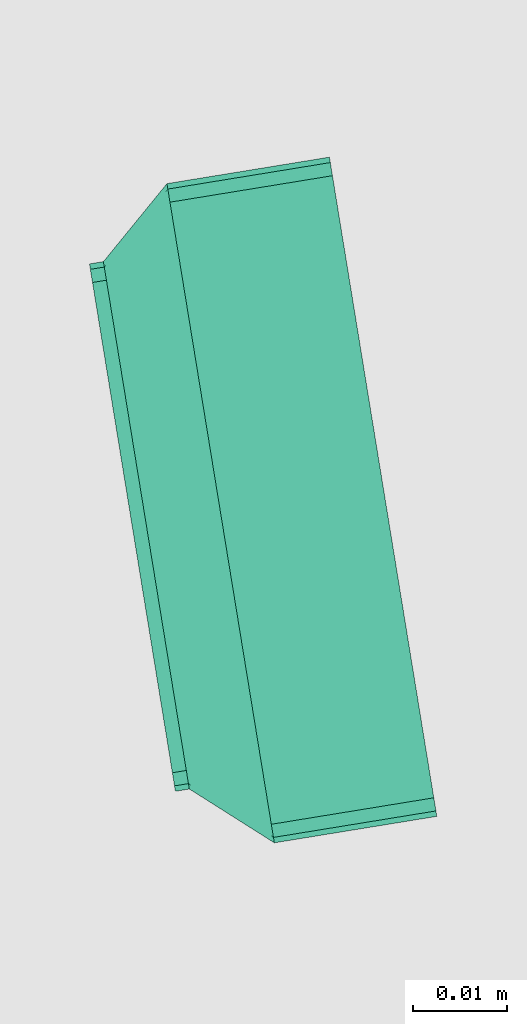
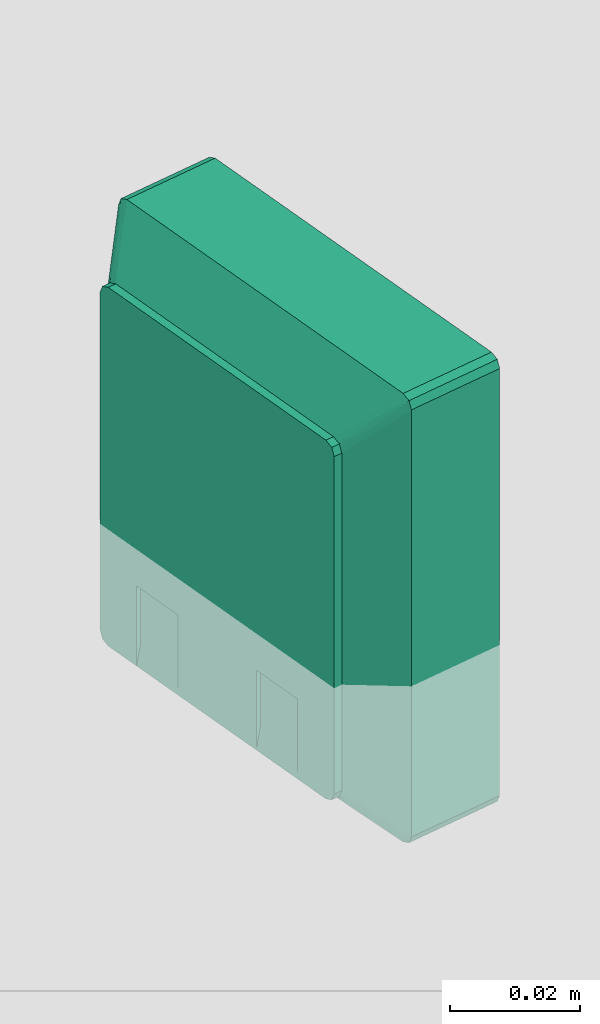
# One storey, part 2 of 2: 1 flow terminal.
"""IFC2X3 building model written with IfcOpenShell, lengths in millimetres."""

import ifcopenshell
import ifcopenshell.guid

model = None  # the IFC model being written
_history = None  # IfcOwnerHistory: only IFC2X3 demands one
_inside = {}  # id of a spatial element -> (the spatial element, [elements in it])
_under = {}  # id of a project, library or spatial element -> (it, [spatial elements below it])
_declared = {}  # id of a project -> (the project, [libraries it declares])
_typed = {}  # id of a type object -> (the type object, [elements of that type])
_made_of = {}  # id of a material, layer set ... -> (it, [elements and type objects made of it])


def new_model(schema):
    """Start an empty IFC model of exactly this schema.

    Asked for "IFC4X3", IfcOpenShell would pick the latest addendum, in which some entities
    have other attributes; the version numbers below select the first issue.
    IFC2X3 requires an IfcOwnerHistory on every rooted entity: one is made here for all.
    """
    global model, _history
    if schema == "IFC4X3":
        model = ifcopenshell.file(schema_version=(4, 3, 0, 0))
    else:
        model = ifcopenshell.file(schema=schema)
    _inside.clear()
    _under.clear()
    _declared.clear()
    _typed.clear()
    _made_of.clear()
    _history = None
    if model.schema == "IFC2X3":
        org = make("IfcOrganization", Name="unknown")
        user = make(
            "IfcPersonAndOrganization",
            ThePerson=make("IfcPerson", FamilyName="unknown"),
            TheOrganization=org,
        )
        app = make(
            "IfcApplication",
            ApplicationDeveloper=org,
            Version="unknown",
            ApplicationFullName="unknown",
            ApplicationIdentifier="unknown",
        )
        _history = make(
            "IfcOwnerHistory",
            OwningUser=user,
            OwningApplication=app,
            ChangeAction="ADDED",
            CreationDate=0,
        )
    return model


def make(cls, **values):
    """One entity of the class cls with the attributes given. An attribute that is None is left unset."""
    return model.create_entity(
        cls, **{name: value for name, value in values.items() if value is not None}
    )


def entity(cls, *values):
    """Any entity or typed value of the class cls, its attributes in the order of the schema. None: left unset."""
    e = model.create_entity(cls)
    for i, value in enumerate(values):
        if value is not None:
            e[i] = value
    return e


def rooted(cls, **values):
    """An entity with a GlobalId (a new one), such as an element, a storey or a relation."""
    return make(cls, GlobalId=ifcopenshell.guid.new(), OwnerHistory=_history, **values)


def si_unit(unit_type, name, prefix=None):
    """IfcSIUnit, for example si_unit("LENGTHUNIT", "METRE", prefix="MILLI")."""
    return make("IfcSIUnit", UnitType=unit_type, Prefix=prefix, Name=name)


def converted_unit(unit_type, name, factor, base, dimensions=None, offset=None):
    """IfcConversionBasedUnit, such as the inch: factor (a typed value) times the base unit."""
    return make(
        "IfcConversionBasedUnit"
        if offset is None
        else "IfcConversionBasedUnitWithOffset",
        ConversionOffset=offset,
        Dimensions=None
        if dimensions is None
        else entity("IfcDimensionalExponents", *dimensions),
        UnitType=unit_type,
        Name=name,
        ConversionFactor=make(
            "IfcMeasureWithUnit", ValueComponent=factor, UnitComponent=base
        ),
    )


def derived_unit(unit_type, elements):
    """IfcDerivedUnit: a product of units, each with its exponent."""
    return make(
        "IfcDerivedUnit",
        Elements=[
            make("IfcDerivedUnitElement", Unit=unit, Exponent=power)
            for unit, power in elements
        ],
        UnitType=unit_type,
    )


def assignment(units):
    """IfcUnitAssignment: the units of a project."""
    return None if units is None else make("IfcUnitAssignment", Units=units)


def point(xyz):
    """IfcCartesianPoint."""
    return None if xyz is None else make("IfcCartesianPoint", Coordinates=xyz)


def direction(xyz):
    """IfcDirection."""
    return None if xyz is None else make("IfcDirection", DirectionRatios=xyz)


def frame(location, z_axis=None, x_axis=None):
    """IfcAxis2Placement3D, a coordinate frame: its origin and axes. An axis left out is left unset."""
    return make(
        "IfcAxis2Placement3D",
        Location=point(location),
        Axis=direction(z_axis),
        RefDirection=direction(x_axis),
    )


def origin():
    """The frame at (0, 0, 0) with its axes left unset."""
    return frame((0.0, 0.0, 0.0))


def origin_with_axes():
    """The frame at (0, 0, 0) with the z axis (0, 0, 1) and the x axis (1, 0, 0) written out."""
    return frame((0.0, 0.0, 0.0), z_axis=(0.0, 0.0, 1.0), x_axis=(1.0, 0.0, 0.0))


def place(relative_to, where):
    """IfcLocalPlacement: puts the frame where relative to a parent placement (None: the world)."""
    return make(
        "IfcLocalPlacement", PlacementRelTo=relative_to, RelativePlacement=where
    )


def context(
    kind, dimensions, precision=None, world=None, true_north=None, identifier=None
):
    """IfcGeometricRepresentationContext, for example the 3D "Model" context."""
    return make(
        "IfcGeometricRepresentationContext",
        ContextIdentifier=identifier,
        ContextType=kind,
        CoordinateSpaceDimension=dimensions,
        Precision=precision,
        WorldCoordinateSystem=world,
        TrueNorth=true_north,
    )


def subcontext(parent, identifier, kind, view, scale=None):
    """IfcGeometricRepresentationSubContext, for example "Body" below "Model"."""
    return make(
        "IfcGeometricRepresentationSubContext",
        ContextIdentifier=identifier,
        ContextType=kind,
        ParentContext=parent,
        TargetScale=scale,
        TargetView=view,
    )


def project(units=None, contexts=None):
    """IfcProject with its units and contexts."""
    return rooted(
        "IfcProject",
        Name="project",
        RepresentationContexts=contexts,
        UnitsInContext=assignment(units),
    )


def spatial(cls, under=None, at=None, **own):
    """A site, building, storey or space (cls), placed at a placement, below another one or the project."""
    s = rooted(cls, ObjectPlacement=at, **own)
    if under is not None:
        _under.setdefault(under.id(), (under, []))[1].append(s)
    return s


def faces_of(points, faces, orient=None, outer=None):
    """IfcFace entities. A face is a list of loops; a loop is a list of indices into points, from 0.

    orient and outer hold one flag for each loop. By default every Orientation is true, the
    first loop of a face is its IfcFaceOuterBound and the others are IfcFaceBound.
    """
    made = []
    for i, loops in enumerate(faces):
        bounds = []
        for j, loop in enumerate(loops):
            is_outer = j == 0 if outer is None else outer[i][j]
            bounds.append(
                make(
                    "IfcFaceOuterBound" if is_outer else "IfcFaceBound",
                    Bound=make("IfcPolyLoop", Polygon=[points[k] for k in loop]),
                    Orientation=True if orient is None else orient[i][j],
                )
            )
        made.append(make("IfcFace", Bounds=bounds))
    return made


def faceted_brep(points, faces, orient=None, outer=None, voids=None):
    """IfcFacetedBrep: a solid bounded by flat faces; with voids (closed shells), ...WithVoids."""
    shared = [point(p) for p in points]
    hull = make("IfcClosedShell", CfsFaces=faces_of(shared, faces, orient, outer))
    if voids is None:
        return make("IfcFacetedBrep", Outer=hull)
    return make(
        "IfcFacetedBrepWithVoids",
        Outer=hull,
        Voids=[
            make(cls, CfsFaces=faces_of(shared, fs, o, b)) for cls, fs, o, b in voids
        ],
    )


def shape(context_of_items, identifier, shape_type, items):
    """IfcShapeRepresentation: the items that make up one representation, for example the "Body"."""
    return make(
        "IfcShapeRepresentation",
        ContextOfItems=context_of_items,
        RepresentationIdentifier=identifier,
        RepresentationType=shape_type,
        Items=items,
    )


def source(mapping_origin, context_of_items, identifier, shape_type, items):
    """IfcRepresentationMap: a shape defined once, which mapped items show again and again."""
    return make(
        "IfcRepresentationMap",
        MappingOrigin=mapping_origin,
        MappedRepresentation=shape(context_of_items, identifier, shape_type, items),
    )


def transform(
    local_origin,
    x_axis=None,
    y_axis=None,
    z_axis=None,
    scale=None,
    scale2=None,
    scale3=None,
    uniform=True,
):
    """IfcCartesianTransformationOperator3D, or its non-uniform kind. x_axis, y_axis, z_axis: its Axis1, 2, 3."""
    if uniform:
        return make(
            "IfcCartesianTransformationOperator3D",
            Axis1=direction(x_axis),
            Axis2=direction(y_axis),
            LocalOrigin=point(local_origin),
            Scale=scale,
            Axis3=direction(z_axis),
        )
    return make(
        "IfcCartesianTransformationOperator3DnonUniform",
        Axis1=direction(x_axis),
        Axis2=direction(y_axis),
        LocalOrigin=point(local_origin),
        Scale=scale,
        Axis3=direction(z_axis),
        Scale2=scale2,
        Scale3=scale3,
    )


def mapped(mapping_source, mapping_target):
    """IfcMappedItem: shows the shape of a source again, moved by a transform."""
    return make(
        "IfcMappedItem", MappingSource=mapping_source, MappingTarget=mapping_target
    )


def material(Name=None, Category=None):
    """IfcMaterial."""
    return make("IfcMaterial", Name=Name, Category=Category)


def made_of(thing, what):
    """Note that an element or type object is made of a material, layer set ...; save() writes the relation."""
    if what is not None:
        _made_of.setdefault(what.id(), (what, []))[1].append(thing)
    return thing


def type_object(cls, material=None, **own):
    """A type object (cls), such as IfcWallType, which elements share."""
    return made_of(rooted(cls, **own), material)


def element(
    cls,
    number,
    at=None,
    inside=None,
    cuts=None,
    type_object=None,
    material=None,
    context=None,
    identifier="Body",
    shape_type=None,
    held_by="IfcProductDefinitionShape",
    body=None,
    shapes=None,
    **own,
):
    """One element of the class cls, such as IfcWall. Its Tag is "e" and its number.

    at: its placement. inside: the storey or other place that contains it. cuts: it is an
    opening in that element (IfcRelVoidsElement). A single representation is given by context,
    identifier, shape_type and body (its items); several are given by shapes. held_by: the class
    of the entity that holds the representations. save() writes the other relations.
    """
    e = rooted(cls, Tag="e%d" % number, ObjectPlacement=at, **own)
    if body is not None:
        shapes = [shape(context, identifier, shape_type, body)]
    if shapes is not None:
        e.Representation = make(held_by, Representations=shapes)
    if inside is not None:
        _inside.setdefault(inside.id(), (inside, []))[1].append(e)
    if cuts is not None:
        rooted(
            "IfcRelVoidsElement", RelatingBuildingElement=cuts, RelatedOpeningElement=e
        )
    if type_object is not None:
        _typed.setdefault(type_object.id(), (type_object, []))[1].append(e)
    return made_of(e, material)


def aggregate(whole, parts):
    """IfcRelAggregates: a whole, such as a stair, and the parts it consists of."""
    return rooted("IfcRelAggregates", RelatingObject=whole, RelatedObjects=parts)


def save(model, path):
    """Write the relations noted so far, then the file.

    IfcRelAggregates (storeys below a building ...), IfcRelContainedInSpatialStructure (elements
    in a storey), IfcRelDefinesByType, IfcRelAssociatesMaterial and IfcRelDeclares: one each for
    every whole, place, type object, material and project.
    """
    for whole, parts in _under.values():
        aggregate(whole, parts)
    for where, things in _inside.values():
        rooted(
            "IfcRelContainedInSpatialStructure",
            RelatedElements=things,
            RelatingStructure=where,
        )
    for kind, things in _typed.values():
        rooted("IfcRelDefinesByType", RelatedObjects=things, RelatingType=kind)
    for what, things in _made_of.values():
        rooted("IfcRelAssociatesMaterial", RelatedObjects=things, RelatingMaterial=what)
    for by, libraries in _declared.values():
        rooted("IfcRelDeclares", RelatingContext=by, RelatedDefinitions=libraries)
    model.write(path)


model = new_model("IFC2X3")

# Units and contexts
model_context = context("Model", 3, precision=0.01, world=origin(), true_north=direction((6.12323399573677e-17, 1.0)))
plan_context = context("Plan", 3, precision=1e-05, world=origin_with_axes())
body_context = subcontext(model_context, "Body", "Model", "MODEL_VIEW")
ifc_project = project(units=[converted_unit("PLANEANGLEUNIT", "DEGREE", entity("IfcPositiveLengthMeasure", 0.0174532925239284), si_unit("PLANEANGLEUNIT", "RADIAN"), dimensions=[0, 0, 0, 0, 0, 0, 0]), si_unit("AREAUNIT", "SQUARE_METRE"), si_unit("LENGTHUNIT", "METRE", prefix="MILLI"), si_unit("MASSUNIT", "GRAM", prefix="KILO"), si_unit("POWERUNIT", "WATT"), si_unit("PRESSUREUNIT", "PASCAL", prefix="KILO"), si_unit("FORCEUNIT", "NEWTON", prefix="KILO"), si_unit("ELECTRICVOLTAGEUNIT", "VOLT"), si_unit("ELECTRICCURRENTUNIT", "AMPERE"), si_unit("THERMODYNAMICTEMPERATUREUNIT", "DEGREE_CELSIUS"), si_unit("TIMEUNIT", "SECOND"), si_unit("VOLUMEUNIT", "CUBIC_METRE"), derived_unit("LINEARVELOCITYUNIT", [(si_unit("LENGTHUNIT", "METRE"), 1), (si_unit("TIMEUNIT", "SECOND"), -1)]), derived_unit("VOLUMETRICFLOWRATEUNIT", [(si_unit("VOLUMEUNIT", "CUBIC_METRE"), 1), (si_unit("TIMEUNIT", "SECOND"), -1)]), derived_unit("THERMALTRANSMITTANCEUNIT", [(si_unit("POWERUNIT", "WATT"), 1), (si_unit("THERMODYNAMICTEMPERATUREUNIT", "KELVIN"), -1), (si_unit("AREAUNIT", "SQUARE_METRE"), -1)]), derived_unit("SOUNDPRESSUREUNIT", [(si_unit("PRESSUREUNIT", "PASCAL"), 1)])], contexts=[model_context, plan_context])

# Site, building, storey
site_placement = place(None, frame((5.09380697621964e-08, 5.80416781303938e-08, 0.0), z_axis=(0.0, 0.0, 1.0), x_axis=(-0.160806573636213, 0.986985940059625, 0.0)))
site = spatial("IfcSite", under=ifc_project, at=site_placement, Name="Default", CompositionType="ELEMENT")
building_placement = place(site_placement, frame((0.0, 0.0, 0.0), z_axis=(0.0, 0.0, 1.0), x_axis=(1.0, -2.77555756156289e-17, 0.0)))
building = spatial("IfcBuilding", under=site, at=building_placement, Name="Bygning (endres i Project Information)", CompositionType="ELEMENT")
storey_placement = place(building_placement, frame((0.0, 0.0, 51360.0000000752), z_axis=(0.0, 0.0, 1.0), x_axis=(1.0, -2.77555756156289e-17, 0.0)))
storey = spatial("IfcBuildingStorey", under=building, at=storey_placement, Name="H01-Nivå D+0,36", CompositionType="ELEMENT", Elevation=51360.0000000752)

# Flow terminal
ifc_material = material(Name="Plastic - White")
electric_appliance_type = type_object("IfcElectricApplianceType", Name="UD2002 Spredenett - 2 uttak - Påvegg_Vegg:UD2002", PredefinedType="NOTDEFINED", material=ifc_material)
shared_shape = source(origin(), body_context, "Body", "Brep", [
    faceted_brep([(28.4000000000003, 25.4999999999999, -31.5999999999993), (27.8142135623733, 25.4999999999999, -33.0142135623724), (26.4000000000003, 25.4999999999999, -33.5999999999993), (-26.3999999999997, 25.4999999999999, -33.5999999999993), (-27.8142135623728, 25.4999999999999, -33.0142135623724), (-28.3999999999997, 25.4999999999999, -31.5999999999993), (-28.3999999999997, 25.4999999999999, 31.6000000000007), (-27.8142135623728, 25.4999999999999, 33.0142135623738), (-26.3999999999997, 25.4999999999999, 33.6000000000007), (26.4000000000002, 25.4999999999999, 33.6000000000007), (27.8142135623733, 25.4999999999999, 33.0142135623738), (28.4000000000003, 25.4999999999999, 31.6000000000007), (35.5000000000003, 17.5, 40.0), (34.9142135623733, 17.5, 41.4142135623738), (33.5000000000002, 17.5, 42.0), (-33.4999999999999, 17.5, 42.0), (-34.914213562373, 17.5, 41.4142135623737), (-35.4999999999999, 17.5, 40.0), (-35.4999999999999, 17.5, -40.0), (-34.914213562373, 17.5, -41.4142135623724), (-33.4999999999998, 17.5, -42.0), (33.5000000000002, 17.5, -42.0), (34.9142135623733, 17.5, -41.4142135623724), (35.5000000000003, 17.5, -40.0), (29.8123847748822, 21.6550594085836, 37.6371876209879), (-29.8123847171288, 21.6550594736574, 37.6371875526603), (-31.8123847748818, 21.6550594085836, 35.6371876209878), (-31.8123847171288, 21.6550594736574, -35.637187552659), (29.8123844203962, 21.6550598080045, -37.6371872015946), (-29.8123847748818, 21.6550594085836, -37.6371876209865), (31.8123844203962, 21.6550598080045, 35.6371872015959), (31.8123847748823, 21.6550594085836, -35.6371876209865), (-31.6676261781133, 21.5000001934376, 36.8245776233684), (-31.1968403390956, 21.2063787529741, 37.8482184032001), (-30.9745776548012, 21.5000001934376, -37.5176261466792), (-31.9505049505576, 21.2063787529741, -37.0945537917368), (31.6676261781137, 21.5000001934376, -36.824577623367), (31.196840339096, 21.2063787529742, -37.8482184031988), (30.9745776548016, 21.5000001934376, 37.5176261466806), (31.950504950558, 21.2063787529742, 37.0945537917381)], [[[0, 1, 2, 3, 4, 5, 6, 7, 8, 9, 10, 11]], [[12, 13, 14, 15, 16, 17, 18, 19, 20, 21, 22, 23]], [[14, 24, 9, 8, 25, 15]], [[17, 26, 6, 5, 27, 18]], [[3, 2, 28, 21, 20, 29]], [[0, 11, 30, 12, 23, 31]], [[16, 32, 17]], [[33, 15, 25, 8]], [[15, 33, 16]], [[7, 6, 32]], [[7, 32, 33]], [[17, 32, 6, 26]], [[8, 7, 33]], [[33, 32, 16]], [[19, 34, 20]], [[35, 18, 27, 5]], [[18, 35, 19]], [[4, 3, 34]], [[4, 34, 35]], [[20, 34, 3, 29]], [[5, 4, 35]], [[35, 34, 19]], [[22, 36, 23]], [[37, 21, 28, 2]], [[21, 37, 22]], [[1, 0, 36]], [[1, 36, 37]], [[23, 36, 0, 31]], [[2, 1, 37]], [[37, 36, 22]], [[13, 38, 14]], [[39, 12, 30, 11]], [[12, 39, 13]], [[10, 9, 38]], [[10, 38, 39]], [[14, 38, 9, 24]], [[11, 10, 39]], [[39, 38, 13]]]),
    faceted_brep([(35.5000000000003, 0.0, 40.0), (34.9142135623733, 0.0, 41.4142135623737), (33.5000000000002, 0.0, 42.0), (-33.4999999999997, 0.0, 42.0), (-34.9142135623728, 0.0, 41.4142135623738), (-35.4999999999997, 0.0, 40.0), (-35.4999999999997, 0.0, -40.0), (-34.9142135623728, 0.0, -41.4142135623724), (-33.4999999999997, 0.0, -42.0), (33.5000000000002, 0.0, -42.0), (34.9142135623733, 0.0, -41.4142135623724), (35.5000000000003, 0.0, -40.0), (-35.4999999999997, 17.5, 40.0), (-34.9142135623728, 17.5, 41.4142135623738), (-33.4999999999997, 17.5, 42.0), (33.5000000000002, 17.5, 42.0), (34.9142135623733, 17.5, 41.4142135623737), (35.5000000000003, 17.5, 40.0), (35.5000000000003, 17.5, -40.0), (34.9142135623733, 17.5, -41.4142135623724), (33.5000000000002, 17.5, -42.0), (-33.4999999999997, 17.5, -42.0), (-34.9142135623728, 17.5, -41.4142135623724), (-35.4999999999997, 17.5, -40.0)], [[[0, 1, 2, 3, 4, 5, 6, 7, 8, 9, 10, 11]], [[12, 13, 14, 15, 16, 17, 18, 19, 20, 21, 22, 23]], [[3, 2, 15, 14]], [[3, 14, 13, 4]], [[13, 12, 5, 4]], [[6, 5, 12, 23]], [[6, 23, 22, 7]], [[22, 21, 8, 7]], [[9, 8, 21, 20]], [[9, 20, 19, 10]], [[19, 18, 11, 10]], [[0, 11, 18, 17]], [[0, 17, 16, 1]], [[16, 15, 2, 1]]]),
    faceted_brep([(28.4, 25.4999999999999, 31.6000000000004), (27.8142135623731, 25.4999999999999, 33.0142135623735), (26.3999999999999, 25.4999999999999, 33.6000000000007), (-26.3999999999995, 25.4999999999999, 33.6000000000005), (-27.8142135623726, 25.4999999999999, 33.0142135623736), (-28.3999999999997, 25.4999999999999, 31.6000000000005), (-28.3999999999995, 25.4999999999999, -31.599999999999), (-27.8142135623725, 25.4999999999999, -33.0142135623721), (-26.3999999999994, 25.4999999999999, -33.5999999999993), (26.4000000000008, 25.4999999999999, -33.5999999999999), (27.8142135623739, 25.4999999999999, -33.014213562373), (28.4000000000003, 25.4999999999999, -31.5999999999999), (-28.3999999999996, 27.0, 31.6000000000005), (-27.8142135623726, 27.0, 33.0142135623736), (-26.3999999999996, 27.0, 33.6000000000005), (26.4, 27.0, 33.6000000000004), (27.8142135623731, 27.0, 33.0142135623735), (28.4, 27.0, 31.6000000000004), (28.4000000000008, 27.0, -31.5999999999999), (27.8142135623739, 27.0, -33.014213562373), (26.4000000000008, 27.0, -33.5999999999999), (19.4976197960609, 27.0, -33.5999999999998), (19.4976197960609, 27.0, -18.5999999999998), (9.50238020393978, 27.0, -18.5999999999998), (9.50238020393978, 27.0, -33.5999999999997), (-9.5023802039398, 27.0, -33.5999999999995), (-9.5023802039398, 27.0, -18.5999999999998), (-19.4976197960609, 27.0, -18.5999999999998), (-19.4976197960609, 27.0, -33.5999999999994), (-26.3999999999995, 27.0, -33.599999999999), (-27.8142135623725, 27.0, -33.0142135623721), (-28.3999999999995, 27.0, -31.5999999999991), (19.4976197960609, 26.2000000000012, -29.6000000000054), (19.4976197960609, 26.2000000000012, -18.5999999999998), (9.50238020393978, 26.2000000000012, -18.5999999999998), (9.50238020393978, 26.2000000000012, -29.6000000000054), (-19.4976197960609, 26.2000000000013, -18.5999999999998), (-9.5023802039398, 26.2000000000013, -18.5999999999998), (-9.5023802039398, 26.2000000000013, -29.6000000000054), (-19.4976197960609, 26.2000000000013, -29.6000000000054)], [[[0, 1, 2, 3, 4, 5, 6, 7, 8, 9, 10, 11]], [[12, 13, 14, 15, 16, 17, 18, 19, 20, 21, 22, 23, 24, 25, 26, 27, 28, 29, 30, 31]], [[3, 2, 15, 14]], [[3, 14, 13, 4]], [[13, 12, 5, 4]], [[6, 5, 12, 31]], [[6, 31, 30, 7]], [[30, 29, 8, 7]], [[8, 29, 28, 25, 24, 21, 20, 9]], [[9, 20, 19, 10]], [[19, 18, 11, 10]], [[0, 11, 18, 17]], [[0, 17, 16, 1]], [[16, 15, 2, 1]], [[32, 33, 22, 21]], [[23, 34, 35, 24]], [[34, 33, 32, 35]], [[36, 37, 38, 39]], [[23, 22, 33, 34]], [[27, 26, 37, 36]], [[24, 35, 32, 21]], [[39, 38, 25, 28]], [[38, 37, 26, 25]], [[27, 36, 39, 28]]]),
])
flow_terminal_placement = place(storey_placement, frame((998180.889005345, -346530.308848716, 3665.48048775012), z_axis=(0.0, 0.0, 1.0), x_axis=(1.0, -2.77555756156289e-17, 0.0)))
element("IfcFlowTerminal", 1, at=flow_terminal_placement, inside=storey, type_object=electric_appliance_type, material=ifc_material, Name="UD2002 Spredenett - 2 uttak - Påvegg_Vegg:UD2002", ObjectType="UD2002 Spredenett - 2 uttak - Påvegg_Vegg:UD2002", context=body_context, shape_type="MappedRepresentation", body=[
    mapped(shared_shape, transform((0.0, 0.0, 0.0), scale=1.0)),
])

save(model, "model.ifc")
